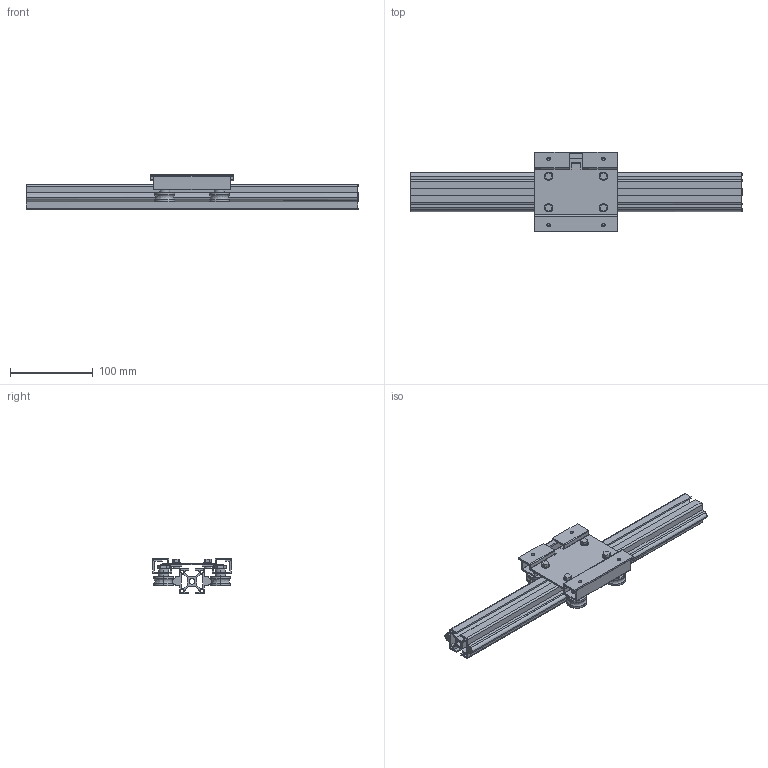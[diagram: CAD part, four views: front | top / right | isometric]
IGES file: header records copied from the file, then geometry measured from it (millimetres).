
Global section: file name: No Iges File Name specified; native system: AutoDesk Inventor R11.0; preprocessor: AutoDesk Inventor Iges Exporter R11.0; author: No Author specified; organization: No Organization specified; date: 20170802.092351; units: millimetre
Bounding box: 400 x 96 x 43 mm (x, y, z)
Surface area: 195866.7 mm2 (no closed solid volume)
Topology: 0 solids, 0 shells, 403 faces, 2442 edges, 2442 vertices
Faces by surface type: bspline 403
